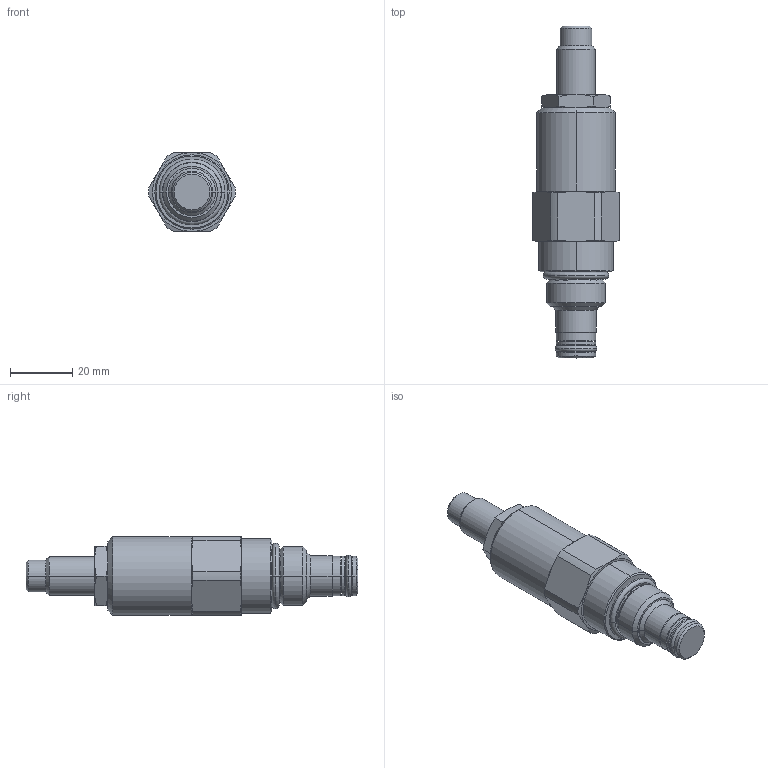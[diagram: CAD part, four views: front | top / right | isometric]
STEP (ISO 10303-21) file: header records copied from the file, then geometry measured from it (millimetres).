
FILE_DESCRIPTION((''),'2;1');
FILE_NAME('ASM0001_SW0001','2009-03-21T',('JCS'),(''),'PRO/ENGINEER BY PARAMETRIC TECHNOLOGY CORPORATION, 2008510','PRO/ENGINEER BY PARAMETRIC TECHNOLOGY CORPORATION, 2008510','');
FILE_SCHEMA(('CONFIG_CONTROL_DESIGN'));
Length unit declared in the file: inch
Products named in the file (1): ASM0001_SW0001
Bounding box: 27.94 x 106.74 x 25.4 mm (x, y, z)
Volume: 35467.1 mm3; surface area: 8701.1 mm2
Topology: 4 solids, 4 shells, 161 faces, 384 edges, 233 vertices
Faces by surface type: cone 52, cylinder 42, plane 35, torus 24, revolution 8
Entity records: 5175 total; most frequent: CARTESIAN_POINT 1381, DIRECTION 832, ORIENTED_EDGE 764, EDGE_CURVE 382, AXIS2_PLACEMENT_3D 357, VERTEX_POINT 233, CIRCLE 204, EDGE_LOOP 171
